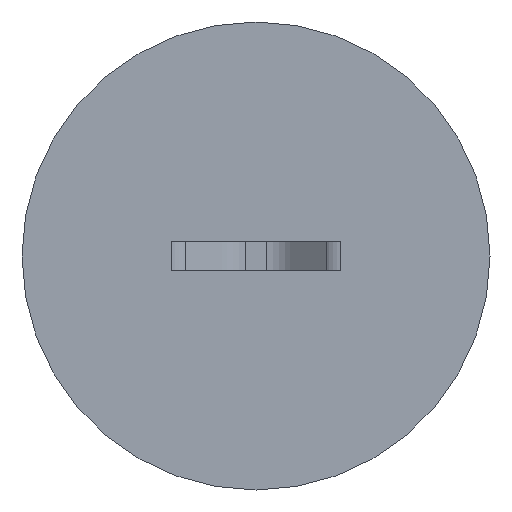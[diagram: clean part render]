
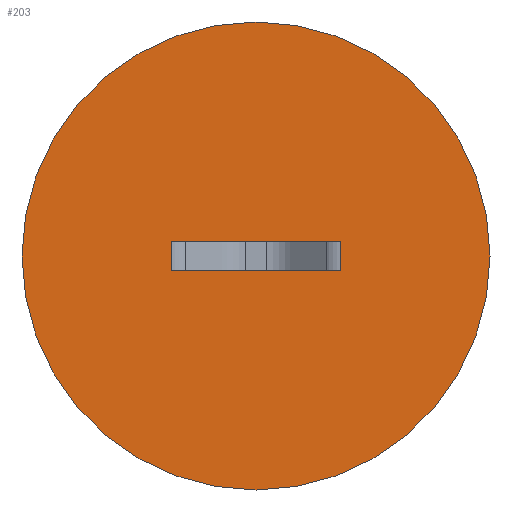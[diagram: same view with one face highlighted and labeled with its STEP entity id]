
A CAD part, front view. The second image highlights one B-rep face of the part: STEP entity #203.
In plain terms, the highlighted planar face has unit normal (0, -1, 0).
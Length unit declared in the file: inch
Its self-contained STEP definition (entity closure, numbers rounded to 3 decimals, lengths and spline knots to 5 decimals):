
#26 = ORIENTED_EDGE ( 'NONE', *, *, #269, .F. ) ;
#69 = CARTESIAN_POINT ( 'NONE',  ( 0.22578, -0.039, 0. ) ) ;
#81 = DIRECTION ( 'NONE',  ( 1., 0., 0. ) ) ;
#86 = VERTEX_POINT ( 'NONE', #69 ) ;
#89 = VECTOR ( 'NONE', #467, 39.37008 ) ;
#128 = DIRECTION ( 'NONE',  ( 0., 1., 0. ) ) ;
#136 = CARTESIAN_POINT ( 'NONE',  ( -0.22578, -0.039, 0.079 ) ) ;
#147 = CARTESIAN_POINT ( 'NONE',  ( -0.22578, -0.039, 0.079 ) ) ;
#190 = FACE_BOUND ( 'NONE', #771, .T. ) ;
#198 = DIRECTION ( 'NONE',  ( 0., 0., -1. ) ) ;
#203 = ADVANCED_FACE ( 'NONE', ( #371, #190 ), #436, .F. ) ;
#215 = CARTESIAN_POINT ( 'NONE',  ( 0.22578, -0.039, 0.079 ) ) ;
#221 = EDGE_LOOP ( 'NONE', ( #515, #298 ) ) ;
#237 = VECTOR ( 'NONE', #81, 39.37008 ) ;
#269 = EDGE_CURVE ( 'NONE', #481, #86, #638, .T. ) ;
#272 = LINE ( 'NONE', #215, #396 ) ;
#287 = EDGE_CURVE ( 'NONE', #748, #385, #328, .T. ) ;
#288 = CARTESIAN_POINT ( 'NONE',  ( -0.22578, -0.039, 0. ) ) ;
#298 = ORIENTED_EDGE ( 'NONE', *, *, #517, .T. ) ;
#328 = LINE ( 'NONE', #136, #417 ) ;
#339 = AXIS2_PLACEMENT_3D ( 'NONE', #559, #741, #513 ) ;
#371 = FACE_OUTER_BOUND ( 'NONE', #221, .T. ) ;
#385 = VERTEX_POINT ( 'NONE', #727 ) ;
#396 = VECTOR ( 'NONE', #641, 39.37008 ) ;
#417 = VECTOR ( 'NONE', #532, 39.37008 ) ;
#436 = PLANE ( 'NONE',  #797 ) ;
#452 = DIRECTION ( 'NONE',  ( 0., -1., 0. ) ) ;
#454 = CARTESIAN_POINT ( 'NONE',  ( -0.22578, -0.039, 0. ) ) ;
#464 = LINE ( 'NONE', #147, #89 ) ;
#467 = DIRECTION ( 'NONE',  ( 0., 0., -1. ) ) ;
#481 = VERTEX_POINT ( 'NONE', #288 ) ;
#509 = VERTEX_POINT ( 'NONE', #623 ) ;
#513 = DIRECTION ( 'NONE',  ( 0., 0., -1. ) ) ;
#515 = ORIENTED_EDGE ( 'NONE', *, *, #644, .T. ) ;
#517 = EDGE_CURVE ( 'NONE', #509, #775, #653, .T. ) ;
#520 = CIRCLE ( 'NONE', #770, 0.625 ) ;
#531 = CARTESIAN_POINT ( 'NONE',  ( 0.22578, -0.039, 0.079 ) ) ;
#532 = DIRECTION ( 'NONE',  ( -1., 0., 0. ) ) ;
#559 = CARTESIAN_POINT ( 'NONE',  ( 0., -0.039, 0.0395 ) ) ;
#599 = DIRECTION ( 'NONE',  ( 0., 0., 1. ) ) ;
#610 = ORIENTED_EDGE ( 'NONE', *, *, #762, .F. ) ;
#623 = CARTESIAN_POINT ( 'NONE',  ( 0., -0.039, 0.6645 ) ) ;
#638 = LINE ( 'NONE', #454, #237 ) ;
#641 = DIRECTION ( 'NONE',  ( 0., 0., -1. ) ) ;
#644 = EDGE_CURVE ( 'NONE', #775, #509, #520, .T. ) ;
#653 = CIRCLE ( 'NONE', #339, 0.625 ) ;
#688 = CARTESIAN_POINT ( 'NONE',  ( 0.22578, -0.039, 0.079 ) ) ;
#713 = CARTESIAN_POINT ( 'NONE',  ( 0., -0.039, -0.5855 ) ) ;
#721 = ORIENTED_EDGE ( 'NONE', *, *, #287, .F. ) ;
#727 = CARTESIAN_POINT ( 'NONE',  ( -0.22578, -0.039, 0.079 ) ) ;
#741 = DIRECTION ( 'NONE',  ( 0., -1., 0. ) ) ;
#742 = EDGE_CURVE ( 'NONE', #748, #86, #272, .T. ) ;
#748 = VERTEX_POINT ( 'NONE', #531 ) ;
#751 = ORIENTED_EDGE ( 'NONE', *, *, #742, .T. ) ;
#753 = CARTESIAN_POINT ( 'NONE',  ( 0., -0.039, 0.0395 ) ) ;
#762 = EDGE_CURVE ( 'NONE', #385, #481, #464, .T. ) ;
#770 = AXIS2_PLACEMENT_3D ( 'NONE', #753, #452, #198 ) ;
#771 = EDGE_LOOP ( 'NONE', ( #721, #751, #26, #610 ) ) ;
#775 = VERTEX_POINT ( 'NONE', #713 ) ;
#797 = AXIS2_PLACEMENT_3D ( 'NONE', #688, #128, #599 ) ;
